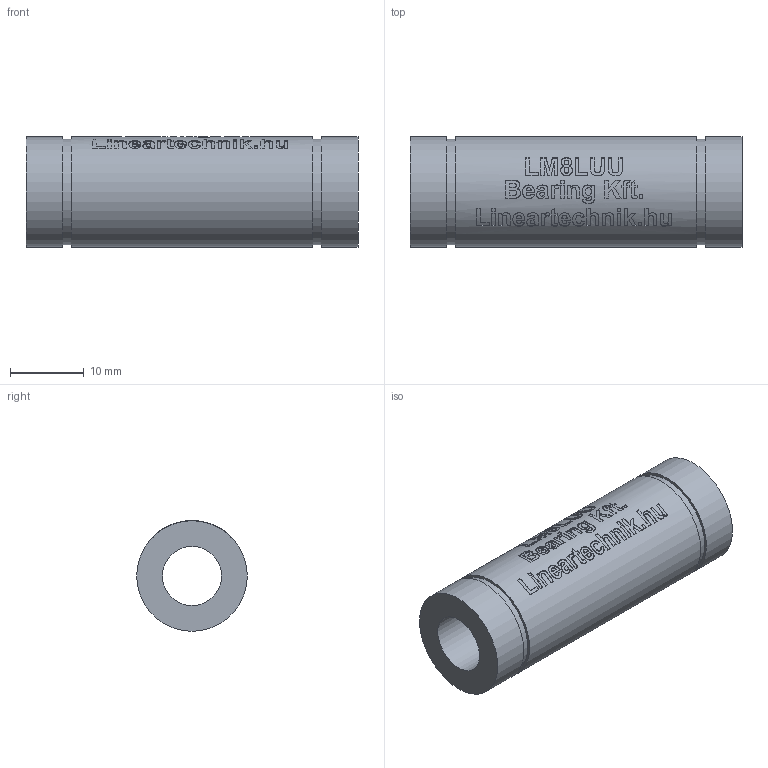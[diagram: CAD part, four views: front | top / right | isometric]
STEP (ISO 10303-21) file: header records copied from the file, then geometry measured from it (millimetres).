
FILE_DESCRIPTION(/* description */ (''),/* implementation_level */ '2;1');
FILE_NAME(/* name */ 'LM8LUU',/* time_stamp */ '2019-05-16T09:39:24+02:00',/* author */ ('VĂ©gh MĂˇtĂ©'),/* organization */ ('Bearing Kft'),/* preprocessor_version */ 'ST-DEVELOPER v16.7',/* originating_system */ 'DEX',/* authorisation */ $);
FILE_SCHEMA (('AUTOMOTIVE_DESIGN {1 0 10303 214 3 1 1}'));
Length unit declared in the file: millimetre
Products named in the file (1): LM8LUU
Bounding box: 45 x 15 x 15 mm (x, y, z)
Volume: 5648.4 mm3; surface area: 3595.2 mm2
Topology: 1 solids, 1 shells, 301 faces, 750 edges, 501 vertices
Faces by surface type: plane 157, bspline 92, cylinder 52
Full cylindrical faces by diameter (mm): 8 x1, 14.3 x2, 15 x3
Entity records: 17005 total; most frequent: CARTESIAN_POINT 10313, ORIENTED_EDGE 1478, DIRECTION 1115, EDGE_CURVE 739, VERTEX_POINT 499, LINE 409, VECTOR 409, EDGE_LOOP 362
